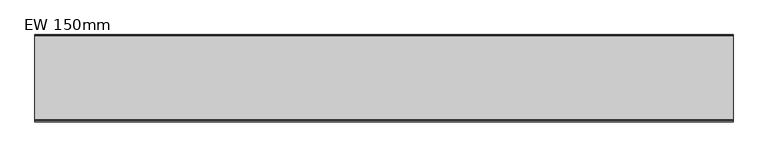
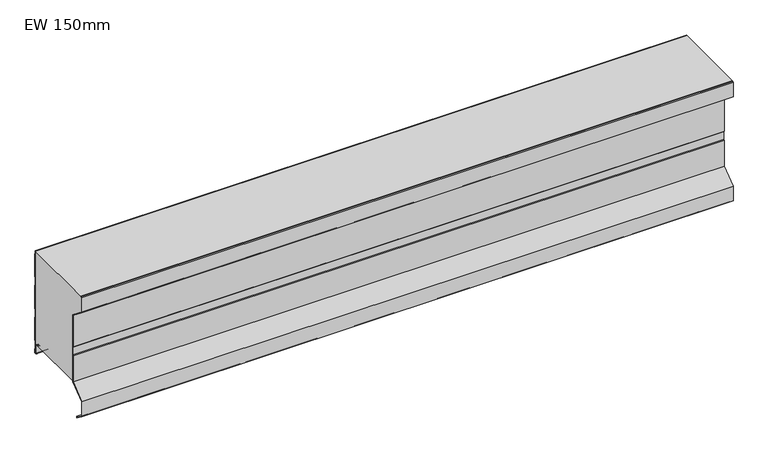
"""IFC4 building model written with IfcOpenShell, lengths in millimetres: plate geometry, KIP-MEX-KC-R19-CP-EW-SL : EW 150mm."""

from ifc_helpers import new_model, si_unit, point, frame, frame_2d, origin, place, context, project, spatial, polyline, circle_curve, trimmed, segment, composite_curve, outline, extrude, source, transform, mapped, element, save


def ew_150mm_8b242ef5(model_context):
    return source(origin(), model_context, "Body", "SweptSolid", [
        extrude(outline(composite_curve([segment(polyline([(-2.2002307, 217.6192114), (-2.2002307, 224.3718713), (-1.2002307, 224.3718713), (-1.2002307, 217.9920919), (-0.3417885, 217.0010442)]), True, "CONTINUOUS"), segment(trimmed(circle_curve(frame_2d((-1.3999972, 216.0844273)), 1.3999972), [point((-0.3417885, 217.0010442))], [point((0.0, 216.0844273))], False, "CARTESIAN"), True, "CONTINUOUS"), segment(polyline([(0.0, 216.0844273), (0.0, 162.3293142)]), True, "CONTINUOUS"), segment(trimmed(circle_curve(frame_2d((-1.3999972, 162.3293142)), 1.3999972), [point((0.0, 162.3293142))], [point((-0.3417885, 161.4126973))], False, "CARTESIAN"), True, "CONTINUOUS"), segment(polyline([(-0.3417885, 161.4126973), (-1.2002307, 160.4216497), (-1.2002307, 141.7922443), (-0.3417885, 140.8011966)]), True, "CONTINUOUS"), segment(trimmed(circle_curve(frame_2d((-1.3999972, 139.8845797)), 1.3999972), [point((-0.3417885, 140.8011966))], [point((0.0, 139.8845797))], False, "CARTESIAN"), True, "CONTINUOUS"), segment(polyline([(0.0, 139.8845797), (0.0, 86.1294666)]), True, "CONTINUOUS"), segment(trimmed(circle_curve(frame_2d((-1.3999972, 86.1294666)), 1.3999972), [point((0.0, 86.1294666))], [point((-0.3417885, 85.2128497))], False, "CARTESIAN"), True, "CONTINUOUS"), segment(polyline([(-0.3417885, 85.2128497), (-1.2002307, 84.2218021), (-1.2002307, 65.5923967), (-0.3417885, 64.601349)]), True, "CONTINUOUS"), segment(trimmed(circle_curve(frame_2d((-1.3999972, 63.6847321)), 1.3999972), [point((-0.3417885, 64.601349))], [point((0.0, 63.6847321))], False, "CARTESIAN"), True, "CONTINUOUS"), segment(polyline([(0.0, 63.6847321), (0.0, 9.929619)]), True, "CONTINUOUS"), segment(trimmed(circle_curve(frame_2d((-1.3999972, 9.929619)), 1.3999972), [point((0.0, 9.929619))], [point((-0.3417885, 9.0130021))], False, "CARTESIAN"), True, "CONTINUOUS"), segment(polyline([(-0.3417885, 9.0130021), (-1.2002307, 8.0219545), (-1.2002307, -10.6074509), (-0.3417885, -11.5984986)]), True, "CONTINUOUS"), segment(trimmed(circle_curve(frame_2d((-1.3999972, -12.5151155)), 1.3999972), [point((-0.3417885, -11.5984986))], [point((0.0, -12.5151155))], False, "CARTESIAN"), True, "CONTINUOUS"), segment(polyline([(0.0, -12.5151155), (0.0, -20.3675812)]), True, "CONTINUOUS"), segment(trimmed(circle_curve(frame_2d((-1.4999795, -20.3675812)), 1.4999795), [point((0.0, -20.3675812))], [point((-1.4999795, -21.8675607))], False, "CARTESIAN"), True, "CONTINUOUS"), segment(polyline([(-1.4999795, -21.8675607), (-2.4999032, -21.8675607)]), True, "CONTINUOUS"), segment(trimmed(circle_curve(frame_2d((-2.4999032, -18.3676454)), 3.4999153), [point((-2.4999032, -21.8675607))], [point((-5.9998185, -18.3676454))], False, "CARTESIAN"), True, "CONTINUOUS"), segment(polyline([(-5.9998185, -18.3676454), (-5.9998185, -0.3670479)]), True, "CONTINUOUS"), segment(trimmed(circle_curve(frame_2d((-8.0001747, -0.3670479)), 2.0003562), [point((-5.9998185, -0.3670479))], [point((-7.9986755, 1.6333077))], True, "CARTESIAN"), True, "CONTINUOUS"), segment(polyline([(-7.9986755, 1.6333077), (-11.5958583, 1.6333077)]), True, "CONTINUOUS"), segment(trimmed(circle_curve(frame_2d((-11.5943838, 4.1340836)), 2.5007763), [point((-11.5958583, 1.6333077))], [point((-14.0574976, 3.7017037))], False, "CARTESIAN"), True, "CONTINUOUS"), segment(polyline([(-14.0574976, 3.7017037), (-14.6793261, 7.2440392), (-13.694386, 7.4169375), (-13.0725576, 3.8746027)]), True, "CONTINUOUS"), segment(trimmed(circle_curve(frame_2d((-11.5943841, 4.1340842)), 1.5007756), [point((-13.0725576, 3.8746027))], [point((-11.5943841, 2.6333086))], True, "CARTESIAN"), True, "CONTINUOUS"), segment(polyline([(-11.5943841, 2.6333086), (-7.9980709, 2.6333089)]), True, "CONTINUOUS"), segment(trimmed(circle_curve(frame_2d((-8.0001719, -0.3670493)), 3.0003589), [point((-7.9980709, 2.6333089))], [point((-4.999813, -0.3670493))], False, "CARTESIAN"), True, "CONTINUOUS"), segment(polyline([(-4.999813, -0.3670493), (-4.999813, -18.3676343)]), True, "CONTINUOUS"), segment(trimmed(circle_curve(frame_2d((-2.4999087, -18.3676343)), 2.4999043), [point((-4.999813, -18.3676343))], [point((-2.4999087, -20.8675386))], True, "CARTESIAN"), True, "CONTINUOUS"), segment(polyline([(-2.4999087, -20.8675386), (-0.9999889, -20.8675386), (-0.9999889, -12.3659771), (-2.2002307, -10.9803314), (-2.2002307, 8.3948349), (-1.0, 9.7804679), (-1.0, 63.8338833), (-2.2002307, 65.2195162), (-2.2002307, 84.5946825), (-1.0, 85.9803155), (-1.0, 140.0337309), (-2.2002307, 141.4193638), (-2.2002307, 160.7945301), (-1.0, 162.1801631), (-1.0, 216.2335785), (-2.2002307, 217.6192114)]), True, "CONTINUOUS")], self_intersect=False)), frame((-740.0, 0.0, 0.0), z_axis=(1.0, 0.0, 0.0), x_axis=(0.0, 1.0, 0.0)), (0.0, 0.0, 1.0), 1480.0),
        extrude(outline(composite_curve([segment(trimmed(circle_curve(frame_2d((-165.7875816, -75.4831487)), 1.5000016), [point((-165.338162, -74.0520558))], [point((-166.714315, -76.6626274))], False, "CARTESIAN"), True, "CONTINUOUS"), segment(polyline([(-166.714315, -76.6626274), (-185.000038, -62.2952701), (-185.000038, -27.2952321), (-150.0, 0.2047977), (-150.0, 62.4737665), (-148.9999989, 63.8880496), (-148.9999989, 82.4599218), (-150.0, 83.8742048), (-150.0, 160.2049713), (-185.000038, 187.7050012), (-185.000038, 222.7050392), (-182.8786153, 224.3718713), (-181.2600249, 224.3718713), (-184.000038, 222.2190039), (-184.000038, 188.1910365), (-149.0, 160.6910066), (-149.0, 84.1920296), (-147.9999989, 82.7777465), (-147.9999989, 63.5702249), (-149.0, 62.1559418), (-149.0, -0.2812376), (-184.000038, -27.7812674), (-184.000038, -61.8092349), (-169.3105941, -73.3509437), (-165.338162, -74.0520558)]), True, "CONTINUOUS")], self_intersect=False)), frame((-740.0, 0.0, 0.0), z_axis=(1.0, 0.0, 0.0), x_axis=(0.0, 1.0, 0.0)), (0.0, 0.0, 1.0), 1480.0),
        extrude(outline(composite_curve([segment(polyline([(-184.000038, 222.2190039), (-181.2600249, 224.3718713), (-2.2002307, 224.3718713), (-2.2002307, 217.6192115), (-1.0, 216.2335785), (-1.0, 162.1801631), (-2.2002307, 160.7945302), (-2.2002307, 141.4193639), (-1.0, 140.0337309), (-1.0, 85.9803155), (-2.2002307, 84.5946826), (-2.2002307, 65.2195163), (-1.0, 63.8338833), (-1.0, 9.7804679), (-2.2002307, 8.394835), (-2.2002307, -10.9803313), (-0.9999916, -12.365974), (-0.9999916, -20.8675386), (-2.4999198, -20.8675386)]), True, "CONTINUOUS"), segment(trimmed(circle_curve(frame_2d((-2.4999198, -18.3676343)), 2.4999043), [point((-2.4999198, -20.8675386))], [point((-4.9998241, -18.3676343))], False, "CARTESIAN"), True, "CONTINUOUS"), segment(polyline([(-4.9998241, -18.3676343), (-4.9998241, -0.3670493)]), True, "CONTINUOUS"), segment(trimmed(circle_curve(frame_2d((-8.0001829, -0.3670493)), 3.0003589), [point((-4.9998241, -0.3670493))], [point((-7.998082, 2.6333088))], True, "CARTESIAN"), True, "CONTINUOUS"), segment(polyline([(-7.998082, 2.6333088), (-11.5943952, 2.6333088)]), True, "CONTINUOUS"), segment(trimmed(circle_curve(frame_2d((-11.5943952, 4.1340843)), 1.5007755), [point((-11.5943952, 2.6333088))], [point((-13.0725686, 3.8746028))], False, "CARTESIAN"), True, "CONTINUOUS"), segment(polyline([(-13.0725686, 3.8746028), (-13.6943971, 7.4169376), (-14.6793372, 7.2440392), (-14.0575086, 3.7017037)]), True, "CONTINUOUS"), segment(trimmed(circle_curve(frame_2d((-11.5943948, 4.1340836)), 2.5007762), [point((-14.0575086, 3.7017037))], [point((-11.5958694, 1.6333077))], True, "CARTESIAN"), True, "CONTINUOUS"), segment(polyline([(-11.5958694, 1.6333077), (-149.0, 1.6333077), (-149.0, 62.1559418), (-147.9999989, 63.5702249), (-147.9999989, 82.7777465), (-149.0, 84.1920296), (-149.0, 160.6910066), (-184.000038, 188.1910365), (-184.000038, 222.2190039)]), True, "CONTINUOUS")], self_intersect=False)), frame((-740.0, 0.0, 0.0), z_axis=(1.0, 0.0, 0.0), x_axis=(0.0, 1.0, 0.0)), (0.0, 0.0, 1.0), 1480.0),
    ])


if __name__ == "__main__":
    model = new_model("IFC4")
    model_context = context("Model", 3, world=origin())
    ifc_project = project(units=[si_unit("LENGTHUNIT", "METRE", prefix="MILLI")], contexts=[model_context])
    site = spatial("IfcSite", under=ifc_project)
    building = spatial("IfcBuilding", under=site)
    placement = place(None, origin())
    ew_150mm_shape = ew_150mm_8b242ef5(model_context)
    element("IfcPlate", 1, ObjectType="KIP-MEX-KC-R19-CP-EW-SL : EW 150mm", at=placement, inside=building, context=model_context, shape_type="MappedRepresentation", body=[
        mapped(ew_150mm_shape, transform((0.0, 0.0, 0.0), x_axis=(1.0, 0.0, 0.0), y_axis=(0.0, 1.0, 0.0), z_axis=(0.0, 0.0, 1.0))),
    ])
    save(model, "model.ifc")
